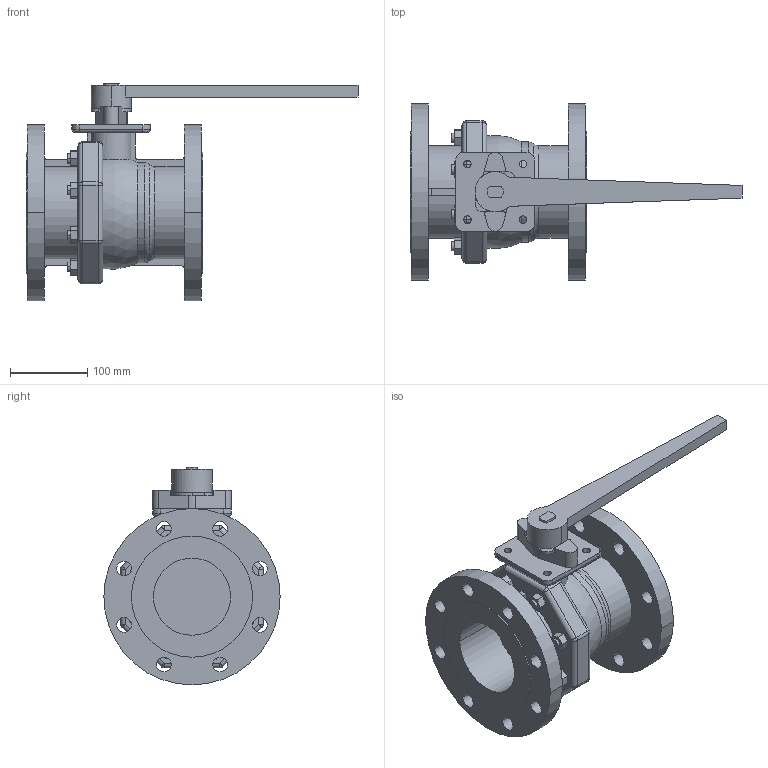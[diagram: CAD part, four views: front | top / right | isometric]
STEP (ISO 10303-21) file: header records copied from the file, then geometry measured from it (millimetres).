
FILE_DESCRIPTION( (''), '2;1');
FILE_NAME ('PC2091.16192.BLV-2SF ANSI150lb 100A_6538.stp','2026-05-28T09:10:09',(''),(''),'spGate 21.9.4 (****-****-****-****)','','');
FILE_SCHEMA (('AUTOMOTIVE_DESIGN'));
Length unit declared in the file: millimetre
Products named in the file (2): Assembly; BLV-2SFA 100A
Assembly tree (1 placements, depth 2):
  Assembly
    BLV-2SFA 100A
Bounding box: 430.4 x 228.6 x 282.3 mm (x, y, z)
Volume: 3526825.7 mm3; surface area: 425512.7 mm2
Topology: 1 solids, 1 shells, 288 faces, 745 edges, 464 vertices
Faces by surface type: plane 133, cylinder 130, sphere 17, bspline 8
Entity records: 14884 total; most frequent: CARTESIAN_POINT 1885, DIRECTION 1503, ORIENTED_EDGE 1458, COLOUR_RGB 1018, PRESENTATION_STYLE_ASSIGNMENT 1018, STYLED_ITEM 1018, EDGE_CURVE 729, DRAUGHTING_PRE_DEFINED_CURVE_FONT 729
